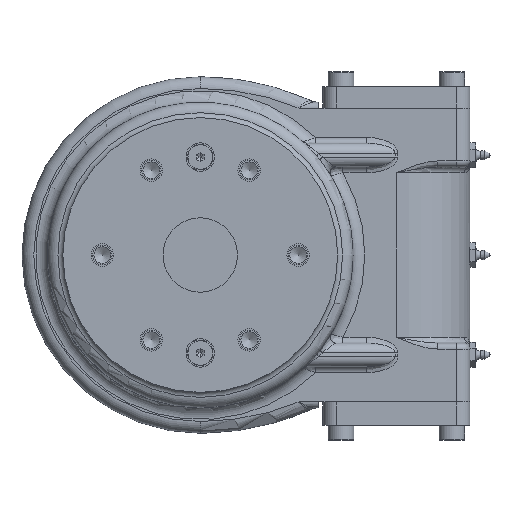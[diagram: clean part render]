
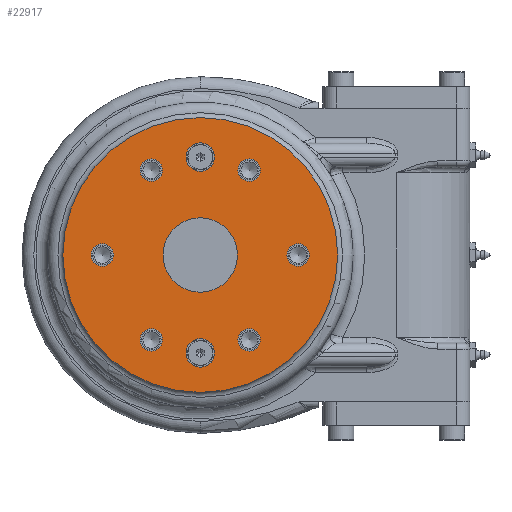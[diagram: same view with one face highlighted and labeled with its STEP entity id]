
A CAD part, left-side view. The second image highlights one B-rep face of the part: STEP entity #22917.
In plain terms, the highlighted planar face has unit normal (-1, 0, 0).
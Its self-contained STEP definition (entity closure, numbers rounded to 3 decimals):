
#153 = ORIENTED_EDGE ( 'NONE', *, *, #15231, .F. ) ;
#955 = CARTESIAN_POINT ( 'NONE',  ( -70.419, 23.493, 0. ) ) ;
#988 = VERTEX_POINT ( 'NONE', #30895 ) ;
#1257 = DIRECTION ( 'NONE',  ( -1., 0., 0. ) ) ;
#1892 = ORIENTED_EDGE ( 'NONE', *, *, #7281, .F. ) ;
#1900 = CIRCLE ( 'NONE', #18089, 70.152 ) ;
#2393 = DIRECTION ( 'NONE',  ( 0., 0., 1. ) ) ;
#2414 = CIRCLE ( 'NONE', #30178, 5.75 ) ;
#2724 = CARTESIAN_POINT ( 'NONE',  ( -70.419, 23.493, -70.152 ) ) ;
#2962 = EDGE_LOOP ( 'NONE', ( #21975 ) ) ;
#3403 = EDGE_LOOP ( 'NONE', ( #26566 ) ) ;
#3585 = CARTESIAN_POINT ( 'NONE',  ( -70.419, -26.507, -5.75 ) ) ;
#3648 = FACE_BOUND ( 'NONE', #6464, .T. ) ;
#3713 = EDGE_LOOP ( 'NONE', ( #1892 ) ) ;
#3740 = DIRECTION ( 'NONE',  ( 0., 0., -1. ) ) ;
#3908 = DIRECTION ( 'NONE',  ( 0., 0., 1. ) ) ;
#4707 = DIRECTION ( 'NONE',  ( -1., 0., 0. ) ) ;
#4789 = VERTEX_POINT ( 'NONE', #11726 ) ;
#4815 = AXIS2_PLACEMENT_3D ( 'NONE', #30186, #15812, #3908 ) ;
#4892 = ORIENTED_EDGE ( 'NONE', *, *, #12224, .F. ) ;
#4935 = DIRECTION ( 'NONE',  ( 0., 0., -1. ) ) ;
#6100 = DIRECTION ( 'NONE',  ( 0., 0., -1. ) ) ;
#6464 = EDGE_LOOP ( 'NONE', ( #12389 ) ) ;
#7001 = FACE_BOUND ( 'NONE', #3713, .T. ) ;
#7281 = EDGE_CURVE ( 'NONE', #28380, #28380, #9671, .T. ) ;
#7526 = DIRECTION ( 'NONE',  ( 0., 0., 1. ) ) ;
#7588 = EDGE_LOOP ( 'NONE', ( #22775 ) ) ;
#7675 = CARTESIAN_POINT ( 'NONE',  ( -70.419, 23.493, 19. ) ) ;
#7889 = EDGE_CURVE ( 'NONE', #9278, #9278, #27656, .T. ) ;
#8033 = DIRECTION ( 'NONE',  ( -1., 0., 0. ) ) ;
#8835 = AXIS2_PLACEMENT_3D ( 'NONE', #21353, #23750, #9861 ) ;
#8930 = AXIS2_PLACEMENT_3D ( 'NONE', #17616, #8033, #19809 ) ;
#8947 = CARTESIAN_POINT ( 'NONE',  ( -70.419, -26.507, 0. ) ) ;
#9131 = EDGE_LOOP ( 'NONE', ( #25377 ) ) ;
#9193 = EDGE_CURVE ( 'NONE', #27624, #27624, #2414, .T. ) ;
#9278 = VERTEX_POINT ( 'NONE', #17063 ) ;
#9671 = CIRCLE ( 'NONE', #23025, 19. ) ;
#9861 = DIRECTION ( 'NONE',  ( 0., 0.866, 0.5 ) ) ;
#10017 = FACE_BOUND ( 'NONE', #30275, .T. ) ;
#10377 = FACE_BOUND ( 'NONE', #30575, .T. ) ;
#10675 = CIRCLE ( 'NONE', #12686, 7.25 ) ;
#10725 = EDGE_CURVE ( 'NONE', #22730, #22730, #25918, .T. ) ;
#10773 = VERTEX_POINT ( 'NONE', #21233 ) ;
#10990 = DIRECTION ( 'NONE',  ( 0., 0., 1. ) ) ;
#11060 = CARTESIAN_POINT ( 'NONE',  ( -70.419, 48.493, 43.301 ) ) ;
#11294 = DIRECTION ( 'NONE',  ( -1., 0., 0. ) ) ;
#11531 = EDGE_CURVE ( 'NONE', #21633, #21633, #16097, .T. ) ;
#11539 = VERTEX_POINT ( 'NONE', #20296 ) ;
#11726 = CARTESIAN_POINT ( 'NONE',  ( -70.419, 3.472, -46.176 ) ) ;
#11934 = EDGE_LOOP ( 'NONE', ( #18049 ) ) ;
#12224 = EDGE_CURVE ( 'NONE', #11539, #11539, #21624, .T. ) ;
#12389 = ORIENTED_EDGE ( 'NONE', *, *, #10725, .F. ) ;
#12686 = AXIS2_PLACEMENT_3D ( 'NONE', #14762, #24281, #4935 ) ;
#12883 = AXIS2_PLACEMENT_3D ( 'NONE', #18379, #11294, #10990 ) ;
#12892 = EDGE_LOOP ( 'NONE', ( #15096 ) ) ;
#13339 = DIRECTION ( 'NONE',  ( -1., 0., 0. ) ) ;
#13438 = DIRECTION ( 'NONE',  ( 0., -0.866, 0.5 ) ) ;
#13707 = FACE_BOUND ( 'NONE', #11934, .T. ) ;
#14730 = CARTESIAN_POINT ( 'NONE',  ( -70.419, 73.493, 0. ) ) ;
#14762 = CARTESIAN_POINT ( 'NONE',  ( -70.419, 23.493, 50. ) ) ;
#15096 = ORIENTED_EDGE ( 'NONE', *, *, #15825, .F. ) ;
#15231 = EDGE_CURVE ( 'NONE', #10773, #10773, #10675, .T. ) ;
#15629 = CIRCLE ( 'NONE', #8835, 5.75 ) ;
#15812 = DIRECTION ( 'NONE',  ( -1., 0., 0. ) ) ;
#15825 = EDGE_CURVE ( 'NONE', #4789, #4789, #24090, .T. ) ;
#16097 = CIRCLE ( 'NONE', #4815, 7.25 ) ;
#17063 = CARTESIAN_POINT ( 'NONE',  ( -70.419, 43.513, 46.176 ) ) ;
#17275 = AXIS2_PLACEMENT_3D ( 'NONE', #11060, #23282, #13438 ) ;
#17616 = CARTESIAN_POINT ( 'NONE',  ( -70.419, -1.507, -43.301 ) ) ;
#17792 = VERTEX_POINT ( 'NONE', #2724 ) ;
#18049 = ORIENTED_EDGE ( 'NONE', *, *, #7889, .F. ) ;
#18089 = AXIS2_PLACEMENT_3D ( 'NONE', #955, #1257, #6100 ) ;
#18379 = CARTESIAN_POINT ( 'NONE',  ( -70.419, 42.493, 0. ) ) ;
#18945 = FACE_OUTER_BOUND ( 'NONE', #7588, .T. ) ;
#19290 = DIRECTION ( 'NONE',  ( 0., -0.866, -0.5 ) ) ;
#19427 = CARTESIAN_POINT ( 'NONE',  ( -70.419, 23.493, 0. ) ) ;
#19809 = DIRECTION ( 'NONE',  ( 0., 0.866, -0.5 ) ) ;
#20296 = CARTESIAN_POINT ( 'NONE',  ( -70.419, -6.487, 40.426 ) ) ;
#21233 = CARTESIAN_POINT ( 'NONE',  ( -70.419, 23.493, 42.75 ) ) ;
#21353 = CARTESIAN_POINT ( 'NONE',  ( -70.419, 48.493, -43.301 ) ) ;
#21571 = FACE_BOUND ( 'NONE', #12892, .T. ) ;
#21624 = CIRCLE ( 'NONE', #23270, 5.75 ) ;
#21633 = VERTEX_POINT ( 'NONE', #27112 ) ;
#21975 = ORIENTED_EDGE ( 'NONE', *, *, #22605, .F. ) ;
#22074 = CARTESIAN_POINT ( 'NONE',  ( -70.419, 73.493, 5.75 ) ) ;
#22605 = EDGE_CURVE ( 'NONE', #988, #988, #15629, .T. ) ;
#22730 = VERTEX_POINT ( 'NONE', #3585 ) ;
#22775 = ORIENTED_EDGE ( 'NONE', *, *, #29808, .T. ) ;
#22917 = ADVANCED_FACE ( 'NONE', ( #10017, #23078, #13707, #10377, #3648, #21571, #26105, #26845, #7001, #18945 ), #29838, .T. ) ;
#23025 = AXIS2_PLACEMENT_3D ( 'NONE', #19427, #4707, #2393 ) ;
#23078 = FACE_BOUND ( 'NONE', #3403, .T. ) ;
#23270 = AXIS2_PLACEMENT_3D ( 'NONE', #28628, #28521, #19290 ) ;
#23282 = DIRECTION ( 'NONE',  ( -1., 0., 0. ) ) ;
#23750 = DIRECTION ( 'NONE',  ( -1., 0., 0. ) ) ;
#24090 = CIRCLE ( 'NONE', #8930, 5.75 ) ;
#24281 = DIRECTION ( 'NONE',  ( -1., 0., 0. ) ) ;
#25377 = ORIENTED_EDGE ( 'NONE', *, *, #9193, .F. ) ;
#25918 = CIRCLE ( 'NONE', #27625, 5.75 ) ;
#26105 = FACE_BOUND ( 'NONE', #2962, .T. ) ;
#26566 = ORIENTED_EDGE ( 'NONE', *, *, #11531, .F. ) ;
#26845 = FACE_BOUND ( 'NONE', #9131, .T. ) ;
#26962 = DIRECTION ( 'NONE',  ( -1., 0., 0. ) ) ;
#27112 = CARTESIAN_POINT ( 'NONE',  ( -70.419, 23.493, -42.75 ) ) ;
#27624 = VERTEX_POINT ( 'NONE', #22074 ) ;
#27625 = AXIS2_PLACEMENT_3D ( 'NONE', #8947, #13339, #3740 ) ;
#27656 = CIRCLE ( 'NONE', #17275, 5.75 ) ;
#28380 = VERTEX_POINT ( 'NONE', #7675 ) ;
#28521 = DIRECTION ( 'NONE',  ( -1., 0., 0. ) ) ;
#28628 = CARTESIAN_POINT ( 'NONE',  ( -70.419, -1.507, 43.301 ) ) ;
#29808 = EDGE_CURVE ( 'NONE', #17792, #17792, #1900, .T. ) ;
#29838 = PLANE ( 'NONE',  #12883 ) ;
#30178 = AXIS2_PLACEMENT_3D ( 'NONE', #14730, #26962, #7526 ) ;
#30186 = CARTESIAN_POINT ( 'NONE',  ( -70.419, 23.493, -50. ) ) ;
#30275 = EDGE_LOOP ( 'NONE', ( #153 ) ) ;
#30575 = EDGE_LOOP ( 'NONE', ( #4892 ) ) ;
#30895 = CARTESIAN_POINT ( 'NONE',  ( -70.419, 53.472, -40.426 ) ) ;
